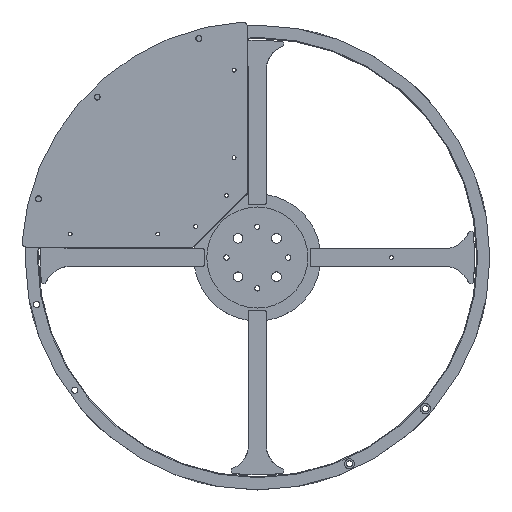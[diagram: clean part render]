
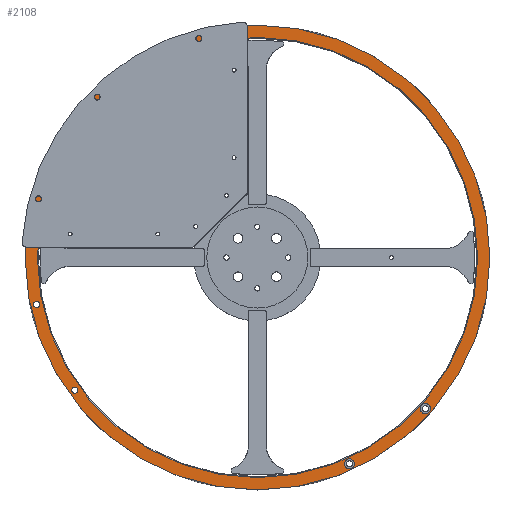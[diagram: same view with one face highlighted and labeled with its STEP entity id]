
A CAD part, top view. The second image highlights one B-rep face of the part: STEP entity #2108.
In plain terms, the highlighted planar face has unit normal (0, 0, 1).
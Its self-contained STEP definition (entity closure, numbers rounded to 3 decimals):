
#79 = DIRECTION ( 'NONE',  ( 1., 0., 0. ) ) ;
#84 = AXIS2_PLACEMENT_3D ( 'NONE', #3932, #3109, #10246 ) ;
#138 = EDGE_CURVE ( 'NONE', #4773, #9718, #4420, .T. ) ;
#208 = EDGE_CURVE ( 'NONE', #7550, #1814, #9710, .T. ) ;
#216 = DIRECTION ( 'NONE',  ( 0., 0., 1. ) ) ;
#220 = CARTESIAN_POINT ( 'NONE',  ( 191.731, -172.636, 28. ) ) ;
#222 = CARTESIAN_POINT ( 'NONE',  ( -205.226, -151.649, 28. ) ) ;
#297 = CIRCLE ( 'NONE', #5296, 251.5 ) ;
#350 = ORIENTED_EDGE ( 'NONE', *, *, #9787, .F. ) ;
#415 = CARTESIAN_POINT ( 'NONE',  ( 110.688, -235.695, 28. ) ) ;
#437 = CIRCLE ( 'NONE', #8821, 265.5 ) ;
#530 = DIRECTION ( 'NONE',  ( 1., 0., 0. ) ) ;
#701 = EDGE_CURVE ( 'NONE', #7216, #2362, #1628, .T. ) ;
#781 = CIRCLE ( 'NONE', #84, 5.75 ) ;
#902 = PLANE ( 'NONE',  #4564 ) ;
#912 = EDGE_CURVE ( 'NONE', #9718, #4773, #5931, .T. ) ;
#919 = DIRECTION ( 'NONE',  ( 1., 0., 0. ) ) ;
#1280 = ORIENTED_EDGE ( 'NONE', *, *, #6054, .T. ) ;
#1303 = DIRECTION ( 'NONE',  ( 1., 0., 0. ) ) ;
#1349 = DIRECTION ( 'NONE',  ( 0., 0., 1. ) ) ;
#1451 = EDGE_LOOP ( 'NONE', ( #1280, #3072 ) ) ;
#1491 = CARTESIAN_POINT ( 'NONE',  ( -255.862, -53.641, 28. ) ) ;
#1628 = CIRCLE ( 'NONE', #8990, 251.5 ) ;
#1722 = CARTESIAN_POINT ( 'NONE',  ( -252.362, -53.641, 28. ) ) ;
#1795 = DIRECTION ( 'NONE',  ( 0., 0., 1. ) ) ;
#1814 = VERTEX_POINT ( 'NONE', #3082 ) ;
#2108 = ADVANCED_FACE ( 'NONE', ( #6657, #7515, #9048, #5001, #8238, #3498 ), #902, .T. ) ;
#2316 = EDGE_CURVE ( 'NONE', #2362, #7216, #297, .T. ) ;
#2347 = AXIS2_PLACEMENT_3D ( 'NONE', #5653, #8885, #4809 ) ;
#2362 = VERTEX_POINT ( 'NONE', #3113 ) ;
#2679 = ORIENTED_EDGE ( 'NONE', *, *, #7297, .F. ) ;
#2686 = DIRECTION ( 'NONE',  ( 0., 0., 1. ) ) ;
#3005 = CIRCLE ( 'NONE', #4373, 5.75 ) ;
#3072 = ORIENTED_EDGE ( 'NONE', *, *, #8719, .T. ) ;
#3082 = CARTESIAN_POINT ( 'NONE',  ( 99.188, -235.695, 28. ) ) ;
#3109 = DIRECTION ( 'NONE',  ( 0., 0., 1. ) ) ;
#3111 = EDGE_CURVE ( 'NONE', #6256, #7670, #5016, .T. ) ;
#3113 = CARTESIAN_POINT ( 'NONE',  ( 251.5, 0., 28. ) ) ;
#3284 = VERTEX_POINT ( 'NONE', #9742 ) ;
#3421 = EDGE_LOOP ( 'NONE', ( #9431, #9789 ) ) ;
#3498 = FACE_OUTER_BOUND ( 'NONE', #1451, .T. ) ;
#3596 = CARTESIAN_POINT ( 'NONE',  ( 0., 0., 28. ) ) ;
#3734 = CIRCLE ( 'NONE', #6447, 265.5 ) ;
#3741 = DIRECTION ( 'NONE',  ( 0., 0., 1. ) ) ;
#3932 = CARTESIAN_POINT ( 'NONE',  ( 104.938, -235.695, 28. ) ) ;
#3958 = ORIENTED_EDGE ( 'NONE', *, *, #138, .F. ) ;
#4059 = AXIS2_PLACEMENT_3D ( 'NONE', #9920, #9809, #5851 ) ;
#4085 = DIRECTION ( 'NONE',  ( 1., 0., 0. ) ) ;
#4172 = EDGE_LOOP ( 'NONE', ( #3958, #5558 ) ) ;
#4174 = CARTESIAN_POINT ( 'NONE',  ( -248.862, -53.641, 28. ) ) ;
#4204 = DIRECTION ( 'NONE',  ( 1., 0., 0. ) ) ;
#4241 = AXIS2_PLACEMENT_3D ( 'NONE', #8728, #3741, #1303 ) ;
#4281 = DIRECTION ( 'NONE',  ( 1., 0., 0. ) ) ;
#4373 = AXIS2_PLACEMENT_3D ( 'NONE', #220, #6018, #4281 ) ;
#4396 = DIRECTION ( 'NONE',  ( 1., 0., 0. ) ) ;
#4420 = CIRCLE ( 'NONE', #4241, 3.5 ) ;
#4564 = AXIS2_PLACEMENT_3D ( 'NONE', #6698, #2686, #4204 ) ;
#4735 = CIRCLE ( 'NONE', #10387, 3.5 ) ;
#4773 = VERTEX_POINT ( 'NONE', #222 ) ;
#4809 = DIRECTION ( 'NONE',  ( 1., 0., 0. ) ) ;
#4894 = CARTESIAN_POINT ( 'NONE',  ( 0., 0., 28. ) ) ;
#4937 = CARTESIAN_POINT ( 'NONE',  ( -251.5, 0., 28. ) ) ;
#5001 = FACE_BOUND ( 'NONE', #6463, .T. ) ;
#5016 = CIRCLE ( 'NONE', #9962, 3.5 ) ;
#5152 = VERTEX_POINT ( 'NONE', #8842 ) ;
#5296 = AXIS2_PLACEMENT_3D ( 'NONE', #4894, #10469, #6527 ) ;
#5558 = ORIENTED_EDGE ( 'NONE', *, *, #912, .F. ) ;
#5653 = CARTESIAN_POINT ( 'NONE',  ( 104.938, -235.695, 28. ) ) ;
#5779 = DIRECTION ( 'NONE',  ( 1., 0., 0. ) ) ;
#5851 = DIRECTION ( 'NONE',  ( 1., 0., 0. ) ) ;
#5931 = CIRCLE ( 'NONE', #7468, 3.5 ) ;
#6018 = DIRECTION ( 'NONE',  ( 0., 0., 1. ) ) ;
#6054 = EDGE_CURVE ( 'NONE', #9320, #10067, #437, .T. ) ;
#6189 = ORIENTED_EDGE ( 'NONE', *, *, #3111, .F. ) ;
#6256 = VERTEX_POINT ( 'NONE', #4174 ) ;
#6335 = ORIENTED_EDGE ( 'NONE', *, *, #9328, .F. ) ;
#6447 = AXIS2_PLACEMENT_3D ( 'NONE', #10575, #9686, #4085 ) ;
#6463 = EDGE_LOOP ( 'NONE', ( #6189, #6335 ) ) ;
#6527 = DIRECTION ( 'NONE',  ( 1., 0., 0. ) ) ;
#6657 = FACE_BOUND ( 'NONE', #7962, .T. ) ;
#6698 = CARTESIAN_POINT ( 'NONE',  ( 0., 0., 28. ) ) ;
#7116 = ORIENTED_EDGE ( 'NONE', *, *, #208, .F. ) ;
#7216 = VERTEX_POINT ( 'NONE', #4937 ) ;
#7222 = DIRECTION ( 'NONE',  ( 0., 0., -1. ) ) ;
#7297 = EDGE_CURVE ( 'NONE', #3284, #5152, #3005, .T. ) ;
#7390 = CARTESIAN_POINT ( 'NONE',  ( 265.5, 0., 28. ) ) ;
#7468 = AXIS2_PLACEMENT_3D ( 'NONE', #10318, #1349, #530 ) ;
#7515 = FACE_BOUND ( 'NONE', #8722, .T. ) ;
#7550 = VERTEX_POINT ( 'NONE', #415 ) ;
#7670 = VERTEX_POINT ( 'NONE', #1491 ) ;
#7962 = EDGE_LOOP ( 'NONE', ( #7116, #350 ) ) ;
#8238 = FACE_BOUND ( 'NONE', #3421, .T. ) ;
#8719 = EDGE_CURVE ( 'NONE', #10067, #9320, #3734, .T. ) ;
#8722 = EDGE_LOOP ( 'NONE', ( #10285, #2679 ) ) ;
#8728 = CARTESIAN_POINT ( 'NONE',  ( -208.726, -151.649, 28. ) ) ;
#8821 = AXIS2_PLACEMENT_3D ( 'NONE', #3596, #9414, #4396 ) ;
#8842 = CARTESIAN_POINT ( 'NONE',  ( 197.481, -172.636, 28. ) ) ;
#8885 = DIRECTION ( 'NONE',  ( 0., 0., 1. ) ) ;
#8990 = AXIS2_PLACEMENT_3D ( 'NONE', #9735, #7222, #5779 ) ;
#9048 = FACE_BOUND ( 'NONE', #4172, .T. ) ;
#9062 = CARTESIAN_POINT ( 'NONE',  ( -265.5, 0., 28. ) ) ;
#9138 = CARTESIAN_POINT ( 'NONE',  ( -252.362, -53.641, 28. ) ) ;
#9320 = VERTEX_POINT ( 'NONE', #9062 ) ;
#9328 = EDGE_CURVE ( 'NONE', #7670, #6256, #4735, .T. ) ;
#9372 = CARTESIAN_POINT ( 'NONE',  ( -212.226, -151.649, 28. ) ) ;
#9414 = DIRECTION ( 'NONE',  ( 0., 0., 1. ) ) ;
#9431 = ORIENTED_EDGE ( 'NONE', *, *, #2316, .T. ) ;
#9643 = EDGE_CURVE ( 'NONE', #5152, #3284, #9861, .T. ) ;
#9686 = DIRECTION ( 'NONE',  ( 0., 0., 1. ) ) ;
#9710 = CIRCLE ( 'NONE', #2347, 5.75 ) ;
#9718 = VERTEX_POINT ( 'NONE', #9372 ) ;
#9735 = CARTESIAN_POINT ( 'NONE',  ( 0., 0., 28. ) ) ;
#9742 = CARTESIAN_POINT ( 'NONE',  ( 185.981, -172.636, 28. ) ) ;
#9787 = EDGE_CURVE ( 'NONE', #1814, #7550, #781, .T. ) ;
#9789 = ORIENTED_EDGE ( 'NONE', *, *, #701, .T. ) ;
#9809 = DIRECTION ( 'NONE',  ( 0., 0., 1. ) ) ;
#9861 = CIRCLE ( 'NONE', #4059, 5.75 ) ;
#9920 = CARTESIAN_POINT ( 'NONE',  ( 191.731, -172.636, 28. ) ) ;
#9962 = AXIS2_PLACEMENT_3D ( 'NONE', #9138, #1795, #79 ) ;
#10067 = VERTEX_POINT ( 'NONE', #7390 ) ;
#10246 = DIRECTION ( 'NONE',  ( 1., 0., 0. ) ) ;
#10285 = ORIENTED_EDGE ( 'NONE', *, *, #9643, .F. ) ;
#10318 = CARTESIAN_POINT ( 'NONE',  ( -208.726, -151.649, 28. ) ) ;
#10387 = AXIS2_PLACEMENT_3D ( 'NONE', #1722, #216, #919 ) ;
#10469 = DIRECTION ( 'NONE',  ( 0., 0., -1. ) ) ;
#10575 = CARTESIAN_POINT ( 'NONE',  ( 0., 0., 28. ) ) ;
